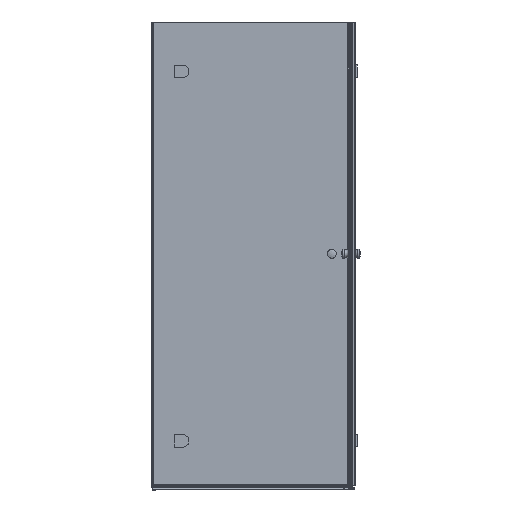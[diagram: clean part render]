
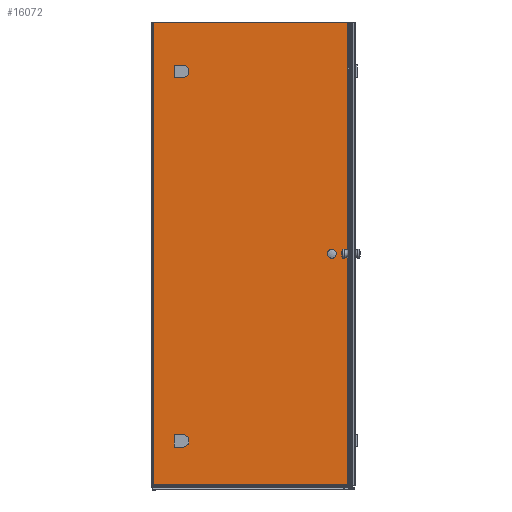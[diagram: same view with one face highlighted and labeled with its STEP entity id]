
A CAD part, front view. The second image highlights one B-rep face of the part: STEP entity #16072.
In plain terms, the highlighted planar face has unit normal (0, -1, 0).
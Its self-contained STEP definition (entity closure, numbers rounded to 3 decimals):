
#1015=FACE_BOUND($,#3423,.T.);
#1016=FACE_BOUND($,#3424,.T.);
#1017=FACE_BOUND($,#3425,.T.);
#1651=PLANE($,#17354);
#3423=EDGE_LOOP($,(#14744,#14745,#14746,#14747));
#3424=EDGE_LOOP($,(#14748,#14749,#14750,#14751));
#3425=EDGE_LOOP($,(#14752,#14753,#14754,#14755));
#3522=LINE($,#21861,#5226);
#3526=LINE($,#21869,#5230);
#3530=LINE($,#21880,#5234);
#3572=LINE($,#21989,#5276);
#3576=LINE($,#21997,#5280);
#3580=LINE($,#22008,#5284);
#5025=LINE($,#25860,#6729);
#5067=LINE($,#26030,#6771);
#5113=LINE($,#26233,#6817);
#5122=LINE($,#26261,#6826);
#5226=VECTOR($,#17604,52.);
#5230=VECTOR($,#17610,23.);
#5234=VECTOR($,#17622,23.);
#5276=VECTOR($,#17728,52.);
#5280=VECTOR($,#17734,23.);
#5284=VECTOR($,#17746,23.);
#6729=VECTOR($,#21157,834.5);
#6771=VECTOR($,#21329,1975.4);
#6817=VECTOR($,#21471,834.5);
#6826=VECTOR($,#21494,1975.4);
#6920=CIRCLE($,#16212,26.);
#6932=CIRCLE($,#16249,26.);
#7326=VERTEX_POINT($,#21859);
#7327=VERTEX_POINT($,#21860);
#7330=VERTEX_POINT($,#21868);
#7332=VERTEX_POINT($,#21874);
#7367=VERTEX_POINT($,#21987);
#7368=VERTEX_POINT($,#21988);
#7371=VERTEX_POINT($,#21996);
#7373=VERTEX_POINT($,#22002);
#8456=VERTEX_POINT($,#25832);
#8461=VERTEX_POINT($,#25847);
#8500=VERTEX_POINT($,#26028);
#8549=VERTEX_POINT($,#26231);
#8671=EDGE_CURVE($,#7326,#7327,#3522,.T.);
#8675=EDGE_CURVE($,#7327,#7330,#3526,.T.);
#8678=EDGE_CURVE($,#7330,#7332,#6920,.T.);
#8681=EDGE_CURVE($,#7332,#7326,#3530,.T.);
#8733=EDGE_CURVE($,#7367,#7368,#3572,.T.);
#8737=EDGE_CURVE($,#7368,#7371,#3576,.T.);
#8740=EDGE_CURVE($,#7371,#7373,#6932,.T.);
#8743=EDGE_CURVE($,#7373,#7367,#3580,.T.);
#10504=EDGE_CURVE($,#8456,#8461,#5025,.T.);
#10579=EDGE_CURVE($,#8461,#8500,#5067,.T.);
#10652=EDGE_CURVE($,#8500,#8549,#5113,.T.);
#10667=EDGE_CURVE($,#8456,#8549,#5122,.T.);
#14744=ORIENTED_EDGE($,*,*,#8671,.F.);
#14745=ORIENTED_EDGE($,*,*,#8681,.F.);
#14746=ORIENTED_EDGE($,*,*,#8678,.F.);
#14747=ORIENTED_EDGE($,*,*,#8675,.F.);
#14748=ORIENTED_EDGE($,*,*,#8733,.F.);
#14749=ORIENTED_EDGE($,*,*,#8743,.F.);
#14750=ORIENTED_EDGE($,*,*,#8740,.F.);
#14751=ORIENTED_EDGE($,*,*,#8737,.F.);
#14752=ORIENTED_EDGE($,*,*,#10667,.F.);
#14753=ORIENTED_EDGE($,*,*,#10504,.T.);
#14754=ORIENTED_EDGE($,*,*,#10579,.T.);
#14755=ORIENTED_EDGE($,*,*,#10652,.T.);
#16072=ADVANCED_FACE($,(#1015,#1016,#1017),#1651,.F.);
#16212=AXIS2_PLACEMENT_3D($,#21875,#17615,#17616);
#16249=AXIS2_PLACEMENT_3D($,#22003,#17739,#17740);
#17354=AXIS2_PLACEMENT_3D($,#26260,#21492,#21493);
#17604=DIRECTION($,(0.,0.,-1.));
#17610=DIRECTION($,(1.,0.,0.));
#17615=DIRECTION('center_axis',(0.,-1.,0.));
#17616=DIRECTION('ref_axis',(0.,0.,
1.));
#17622=DIRECTION($,(-1.,0.,0.));
#17728=DIRECTION($,(0.,0.,-1.));
#17734=DIRECTION($,(1.,0.,0.));
#17739=DIRECTION('center_axis',(0.,-1.,0.));
#17740=DIRECTION('ref_axis',(0.,0.,
1.));
#17746=DIRECTION($,(-1.,0.,0.));
#21157=DIRECTION($,(1.,0.,0.));
#21329=DIRECTION($,(0.,0.,1.));
#21471=DIRECTION($,(-1.,0.,0.));
#21492=DIRECTION('center_axis',(0.,1.,0.));
#21493=DIRECTION('ref_axis',(-1.,0.,0.));
#21494=DIRECTION($,(0.,0.,1.));
#21859=CARTESIAN_POINT('',(623.805,-198.044,-279.056));
#21860=CARTESIAN_POINT('',(623.805,-198.044,-331.056));
#21861=CARTESIAN_POINT($,(623.805,-198.044,-413.056));
#21868=CARTESIAN_POINT('',(646.805,-198.044,-331.056));
#21869=CARTESIAN_POINT($,(1001.055,-198.044,-331.056));
#21874=CARTESIAN_POINT('',(646.805,-198.044,-279.056));
#21875=CARTESIAN_POINT('Origin',(646.805,-198.044,-305.056));
#21880=CARTESIAN_POINT($,(989.555,-198.044,-279.056));
#21987=CARTESIAN_POINT('',(623.805,-198.044,1300.944));
#21988=CARTESIAN_POINT('',(623.805,-198.044,1248.944));
#21989=CARTESIAN_POINT($,(623.805,-198.044,376.944));
#21996=CARTESIAN_POINT('',(646.805,-198.044,1248.944));
#21997=CARTESIAN_POINT($,(1001.055,-198.044,1248.944));
#22002=CARTESIAN_POINT('',(646.805,-198.044,1300.944));
#22003=CARTESIAN_POINT('Origin',(646.805,-198.044,1274.944));
#22008=CARTESIAN_POINT($,(989.555,-198.044,1300.944));
#25832=CARTESIAN_POINT('',(520.805,-198.044,-490.456));
#25847=CARTESIAN_POINT('',(1355.305,-198.044,-490.456));
#25860=CARTESIAN_POINT($,(515.805,-198.044,-490.456));
#26028=CARTESIAN_POINT('',(1355.305,-198.044,1484.944));
#26030=CARTESIAN_POINT($,(1355.305,-198.044,-495.056));
#26231=CARTESIAN_POINT('',(520.805,-198.044,1484.944));
#26233=CARTESIAN_POINT($,(1355.305,-198.044,1484.944));
#26260=CARTESIAN_POINT('Origin',(1355.305,-198.044,-495.056));
#26261=CARTESIAN_POINT($,(520.805,-198.044,494.944));
